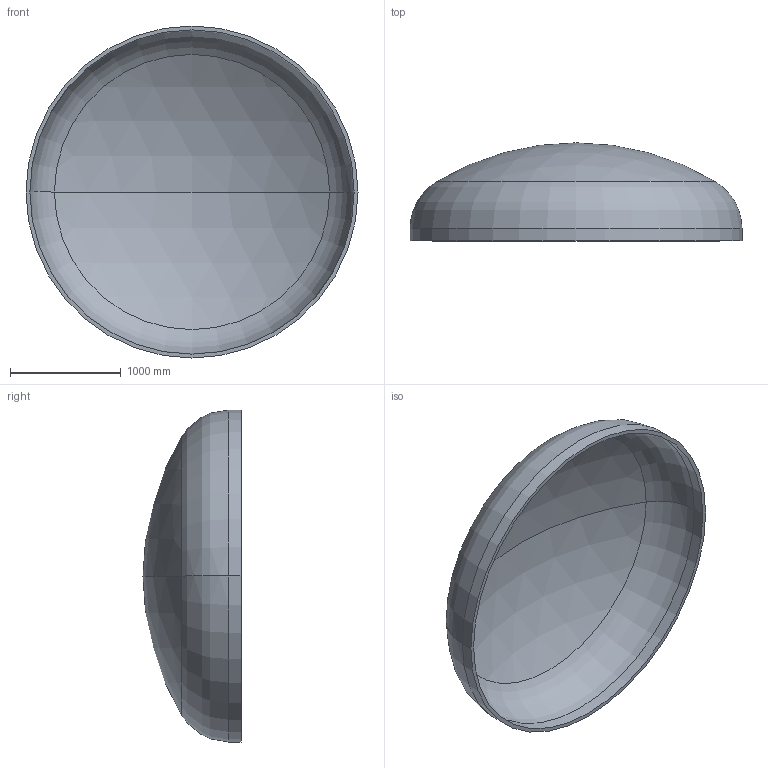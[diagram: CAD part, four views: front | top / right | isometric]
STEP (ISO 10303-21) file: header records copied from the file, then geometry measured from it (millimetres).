
FILE_DESCRIPTION (( 'STEP AP203' ), '1' );
FILE_NAME ('DIN 28013 Korbbogenform_-_Boden DIN 28013 - 3000 x 110 - I - s=35.step', '2016-07-01T17:43:03', ( '' ), ( '' ), 'SwSTEP 2.0', 'SolidWorks 2013', '' );
FILE_SCHEMA (( 'CONFIG_CONTROL_DESIGN' ));
Length unit declared in the file: millimetre
Products named in the file (1): DIN 28013 Korbbogenform_-_Boden DIN 28013 - 3000 x 110 - I - s=35
Bounding box: 3000 x 885.61 x 3000 mm (x, y, z)
Volume: 372975801.5 mm3; surface area: 21641479.7 mm2
Topology: 1 solids, 1 shells, 13 faces, 24 edges, 14 vertices
Faces by surface type: torus 4, cylinder 4, sphere 4, plane 1
Entity records: 407 total; most frequent: DIRECTION 72, CARTESIAN_POINT 52, ORIENTED_EDGE 48, AXIS2_PLACEMENT_3D 34, EDGE_CURVE 24, CIRCLE 20, EDGE_LOOP 14, VERTEX_POINT 14
